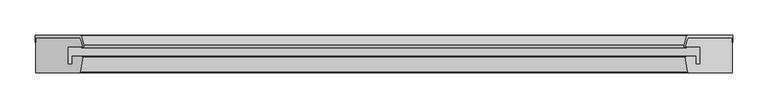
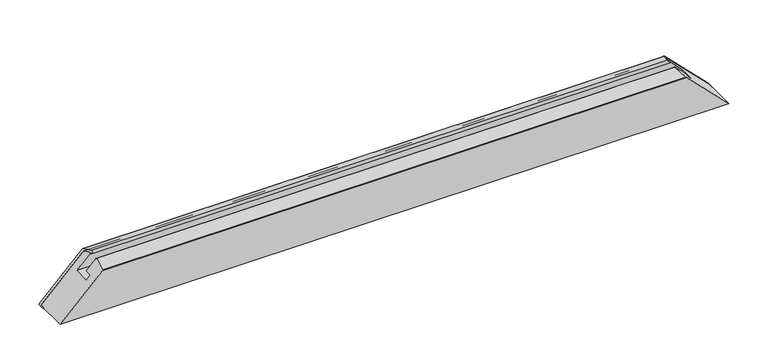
"""IFC4 building model written with IfcOpenShell, lengths in millimetres: proxy geometry, Weiku - Montante - Caixilho fixo 02.2.01.005 : Weiku - Montante - Caixilho fixo 02.2.01.005."""

from ifc_helpers import new_model, si_unit, frame, origin, place, context, project, spatial, polyline, ellipse_curve, source, transform, mapped, element, save
from ifc_brep_helpers import plane_surface, cylinder_surface, revolved_surface, advanced_brep


def generic_models_0eb24a48(model_context):
    return source(origin(), model_context, "Body", "AdvancedBrep", [
        advanced_brep(
        [(498.5, 43.5137905, -1.0), (498.5, 54.0, -1.0), (433.4663236, 54.0, 64.0336764), (432.5003978, 53.258819, 64.9996022), (428.6863753, 39.0246933, 68.8136247), (431.3909676, 35.5, 66.1090324), (431.3909676, 37.5, 66.1090324), (430.618227, 38.5070552, 66.881773), (433.1019557, 47.7764571, 64.3980443), (435.9997332, 50.0, 61.5002668), (497.5, 50.0, 0.0), (497.5, 43.5137905, 0.0), (-498.5, 54.0, -1.0), (-498.5, 43.5137905, -1.0), (-497.5, 43.5137905, 0.0), (-497.5, 50.0, 0.0), (-435.9997332, 50.0, 61.5002668), (-433.1019557, 47.7764571, 64.3980443), (-430.618227, 38.5070552, 66.881773), (-431.3909676, 37.5, 66.1090324), (-431.3909676, 35.5, 66.1090324), (-428.6863753, 39.0246933, 68.8136247), (-432.5003978, 53.258819, 64.9996022), (-433.4663236, 54.0, 64.0336764)],
        [
            (0, 1),
            (1, 2),
            (2, 3, ellipse_curve(frame((433.4663236, 53.0, 64.0336764), z_axis=(0.7071067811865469, 0.0, 0.7071067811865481), x_axis=(-0.7071067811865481, 0.0, 0.7071067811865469)), 1.4142136, 1.0)),
            (3, 4),
            (4, 5, ellipse_curve(frame((431.3909676, 38.3, 66.1090324), z_axis=(0.7071067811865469, 0.0, 0.7071067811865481), x_axis=(-0.7071067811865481, 0.0, 0.7071067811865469)), 3.959798, 2.8)),
            (5, 6),
            (6, 7, ellipse_curve(frame((431.3909676, 38.3, 66.1090324), z_axis=(-0.7071067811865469, 0.0, -0.7071067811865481), x_axis=(0.7071067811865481, 0.0, -0.7071067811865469)), 1.1313708, 0.8)),
            (7, 8),
            (8, 9, ellipse_curve(frame((435.9997332, 47.0, 61.5002668), z_axis=(-0.7071067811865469, 0.0, -0.7071067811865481), x_axis=(0.7071067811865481, 0.0, -0.7071067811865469)), 4.2426407, 3.0)),
            (9, 10),
            (10, 11),
            (11, 0),
            (12, 13),
            (13, 14),
            (14, 15),
            (15, 16),
            (16, 17, ellipse_curve(frame((-435.9997332, 47.0, 61.5002668), z_axis=(0.7071067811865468, 0.0, -0.7071067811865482), x_axis=(0.7071067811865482, 0.0, 0.7071067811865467)), 4.2426407, 3.0)),
            (17, 18),
            (18, 19, ellipse_curve(frame((-431.3909676, 38.3, 66.1090324), z_axis=(0.7071067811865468, 0.0, -0.7071067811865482), x_axis=(0.7071067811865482, 0.0, 0.7071067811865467)), 1.1313708, 0.8)),
            (19, 20),
            (20, 21, ellipse_curve(frame((-431.3909676, 38.3, 66.1090324), z_axis=(-0.7071067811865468, 0.0, 0.7071067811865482), x_axis=(-0.7071067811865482, 0.0, -0.7071067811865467)), 3.959798, 2.8)),
            (21, 22),
            (22, 23, ellipse_curve(frame((-433.4663236, 53.0, 64.0336764), z_axis=(-0.7071067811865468, 0.0, 0.7071067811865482), x_axis=(-0.7071067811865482, 0.0, -0.7071067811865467)), 1.4142136, 1.0)),
            (23, 12),
            (0, 13),
            (12, 1),
            (11, 14),
            (10, 15),
            (9, 16),
            (8, 17),
            (7, 18),
            (6, 19),
            (5, 20),
            (4, 21),
            (3, 22),
            (2, 23),
        ],
        [
            plane_surface(frame((427.5, -15.0, 70.0), z_axis=(0.7071067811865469, 0.0, 0.7071067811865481), x_axis=(0.0, 1.0, 0.0))),
            plane_surface(frame((-567.5, -15.0, -70.0), z_axis=(-0.7071067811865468, 0.0, 0.7071067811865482), x_axis=(0.0, 1.0, 0.0))),
            plane_surface(frame((-500.3284271, 54.0, -1.0), z_axis=(0.0, 0.0, -1.0), x_axis=(1.0, 0.0, 0.0))),
            plane_surface(frame((-500.3284271, 43.5137905, -1.0), z_axis=(0.0, -1.0, 0.0), x_axis=(1.0, 0.0, 0.0))),
            plane_surface(frame((-500.3284271, 43.5137905, 0.0), z_axis=(0.0, 0.0, 1.0), x_axis=(1.0, 0.0, 0.0))),
            plane_surface(frame((-500.3284271, 50.0, 0.0), z_axis=(0.0, -1.0, 0.0), x_axis=(1.0, 0.0, 0.0))),
            revolved_surface(polyline([(438.99973320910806, 44.0, 61.5002668), (-438.999733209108, 44.0, 61.5002668)]), (-500.3284271, 47.0, 61.5002668), (1.0, 0.0, 0.0)),
            plane_surface(frame((-500.3284271, 47.7764571, 64.3980443), z_axis=(0.0, -0.2588190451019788, -0.9659258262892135), x_axis=(1.0, 0.0, 0.0))),
            revolved_surface(polyline([(432.1909675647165, 37.5, 66.1090324), (-432.19096756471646, 37.5, 66.1090324)]), (-500.3284271, 38.3, 66.1090324), (1.0, 0.0, 0.0)),
            plane_surface(frame((-500.3284271, 37.5, 66.1090324), z_axis=(0.0, 0.0, -1.0), x_axis=(1.0, 0.0, 0.0))),
            cylinder_surface(frame((-500.3284271, 38.3, 66.1090324), z_axis=(-1.0, 0.0, 0.0), x_axis=(0.0, -1.0, 0.0)), 2.8),
            plane_surface(frame((-500.3284271, 39.0246933, 68.8136247), z_axis=(0.0, 0.25881904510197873, 0.9659258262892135), x_axis=(1.0, 0.0, 0.0))),
            cylinder_surface(frame((-500.3284271, 53.0, 64.0336764), z_axis=(-1.0, 0.0, 0.0), x_axis=(0.0, -1.0, 0.0)), 1.0),
            plane_surface(frame((-500.3284271, 54.0, 64.0336764), z_axis=(0.0, 1.0, 0.0), x_axis=(1.0, 0.0, 0.0))),
        ],
        [
            (0, [[1, 2, 3, 4, 5, 6, 7, 8, 9, 10, 11, 12]]),
            (1, [[13, 14, 15, 16, 17, 18, 19, 20, 21, 22, 23, 24]]),
            (2, [[-1, 25, -13, 26]]),
            (3, [[-12, 27, -14, -25]]),
            (4, [[-11, 28, -15, -27]]),
            (5, [[-10, 29, -16, -28]]),
            (6, [[-9, 30, -17, -29]]),
            (7, [[-8, 31, -18, -30]]),
            (8, [[-7, 32, -19, -31]]),
            (9, [[-6, 33, -20, -32]]),
            (10, [[-5, 34, -21, -33]]),
            (11, [[-4, 35, -22, -34]]),
            (12, [[-3, 36, -23, -35]]),
            (13, [[-2, -26, -24, -36]]),
        ],
    ),
        advanced_brep(
        [(-430.618227, 38.5070552, 66.881773), (-433.1019557, 47.7764571, 64.3980443), (-435.9997332, 50.0, 61.5002668), (-497.5, 50.0, 0.0), (-497.5, 0.0, 0.0), (-435.0355572, 0.0, 62.4644428), (-434.0489094, 0.8371317, 63.4510906), (-430.4998537, 22.3371317, 67.0001463), (-431.4865015, 23.5, 66.0134985), (-445.5009154, 23.5, 51.9990846), (-445.5009154, 12.5, 51.9990846), (-451.5, 12.5, 46.0), (-451.5, 37.5, 46.0), (-431.3909676, 37.5, 66.1090324), (433.1019557, 47.7764571, 64.3980443), (430.618227, 38.5070552, 66.881773), (431.3909676, 37.5, 66.1090324), (451.5, 37.5, 46.0), (451.5, 12.5, 46.0), (445.5009154, 12.5, 51.9990846), (445.5009154, 23.5, 51.9990846), (431.4865015, 23.5, 66.0134985), (430.4998537, 22.3371317, 67.0001463), (434.0489094, 0.8371317, 63.4510906), (435.0355572, 0.0, 62.4644428), (497.5, 0.0, 0.0), (497.5, 50.0, 0.0), (435.9997332, 50.0, 61.5002668)],
        [
            (0, 1),
            (1, 2, ellipse_curve(frame((-435.9997332, 47.0, 61.5002668), z_axis=(-0.7071067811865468, 0.0, 0.7071067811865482), x_axis=(-0.7071067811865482, 0.0, -0.7071067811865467)), 4.2426407, 3.0)),
            (2, 3),
            (3, 4),
            (4, 5),
            (5, 6, ellipse_curve(frame((-435.0355572, 1.0, 62.4644428), z_axis=(-0.7071067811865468, 0.0, 0.7071067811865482), x_axis=(-0.7071067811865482, 0.0, -0.7071067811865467)), 1.4142136, 1.0)),
            (6, 7),
            (7, 8, ellipse_curve(frame((-431.4865015, 22.5, 66.0134985), z_axis=(-0.7071067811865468, 0.0, 0.7071067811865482), x_axis=(-0.7071067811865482, 0.0, -0.7071067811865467)), 1.4142136, 1.0)),
            (8, 9),
            (9, 10),
            (10, 11),
            (11, 12),
            (12, 13),
            (13, 0, ellipse_curve(frame((-431.3909676, 38.3, 66.1090324), z_axis=(-0.7071067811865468, 0.0, 0.7071067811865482), x_axis=(-0.7071067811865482, 0.0, -0.7071067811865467)), 1.1313708, 0.8)),
            (14, 15),
            (15, 16, ellipse_curve(frame((431.3909676, 38.3, 66.1090324), z_axis=(0.7071067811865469, 0.0, 0.7071067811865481), x_axis=(-0.7071067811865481, 0.0, 0.7071067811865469)), 1.1313708, 0.8)),
            (16, 17),
            (17, 18),
            (18, 19),
            (19, 20),
            (20, 21),
            (21, 22, ellipse_curve(frame((431.4865015, 22.5, 66.0134985), z_axis=(0.7071067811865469, 0.0, 0.7071067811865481), x_axis=(-0.7071067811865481, 0.0, 0.7071067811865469)), 1.4142136, 1.0)),
            (22, 23),
            (23, 24, ellipse_curve(frame((435.0355572, 1.0, 62.4644428), z_axis=(0.7071067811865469, 0.0, 0.7071067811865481), x_axis=(-0.7071067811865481, 0.0, 0.7071067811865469)), 1.4142136, 1.0)),
            (24, 25),
            (25, 26),
            (26, 27),
            (27, 14, ellipse_curve(frame((435.9997332, 47.0, 61.5002668), z_axis=(0.7071067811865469, 0.0, 0.7071067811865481), x_axis=(-0.7071067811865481, 0.0, 0.7071067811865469)), 4.2426407, 3.0)),
            (0, 15),
            (14, 1),
            (27, 2),
            (26, 3),
            (25, 4),
            (24, 5),
            (23, 6),
            (22, 7),
            (21, 8),
            (20, 9),
            (19, 10),
            (18, 11),
            (17, 12),
            (16, 13),
        ],
        [
            plane_surface(frame((-567.5, -15.0, -70.0), z_axis=(-0.7071067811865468, 0.0, 0.7071067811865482), x_axis=(0.0, 1.0, 0.0))),
            plane_surface(frame((427.5, -15.0, 70.0), z_axis=(0.7071067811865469, 0.0, 0.7071067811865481), x_axis=(0.0, 1.0, 0.0))),
            plane_surface(frame((-497.5, 38.5070552, 66.881773), z_axis=(0.0, 0.2588190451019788, 0.9659258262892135), x_axis=(1.0, 0.0, 0.0))),
            cylinder_surface(frame((-497.5, 47.0, 61.5002668), z_axis=(-1.0, 0.0, 0.0), x_axis=(0.0, -1.0, 0.0)), 3.0),
            plane_surface(frame((-497.5, 50.0, 61.5002668), z_axis=(0.0, 1.0, 0.0), x_axis=(1.0, 0.0, 0.0))),
            plane_surface(frame((-497.5, 50.0, 0.0), z_axis=(0.0, 0.0, -1.0), x_axis=(1.0, 0.0, 0.0))),
            plane_surface(frame((-497.5, 0.0, 0.0), z_axis=(0.0, -1.0, 0.0), x_axis=(1.0, 0.0, 0.0))),
            cylinder_surface(frame((-497.5, 1.0, 62.4644428), z_axis=(-1.0, 0.0, 0.0), x_axis=(0.0, 1.0, 0.0)), 1.0),
            plane_surface(frame((-497.5, 0.8371317, 63.4510906), z_axis=(0.0, -0.16286828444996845, 0.9866478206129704), x_axis=(1.0, 0.0, 0.0))),
            cylinder_surface(frame((-497.5, 22.5, 66.0134985), z_axis=(-1.0, 0.0, 0.0), x_axis=(0.0, 1.0, 0.0)), 1.0),
            plane_surface(frame((-497.5, 23.5, 66.0134985), z_axis=(0.0, 1.0, 0.0), x_axis=(1.0, 0.0, 0.0))),
            plane_surface(frame((-497.5, 23.5, 51.9990846), z_axis=(0.0, 0.0, -1.0), x_axis=(1.0, 0.0, 0.0))),
            plane_surface(frame((-497.5, 12.5, 51.9990846), z_axis=(0.0, 1.0, 0.0), x_axis=(1.0, 0.0, 0.0))),
            plane_surface(frame((-497.5, 12.5, 46.0), z_axis=(0.0, 0.0, 1.0), x_axis=(1.0, 0.0, 0.0))),
            plane_surface(frame((-497.5, 37.5, 46.0), z_axis=(0.0, -1.0, 0.0), x_axis=(1.0, 0.0, 0.0))),
            cylinder_surface(frame((-497.5, 38.3, 66.1090324), z_axis=(-1.0, 0.0, 0.0), x_axis=(0.0, -1.0, 0.0)), 0.8),
        ],
        [
            (0, [[1, 2, 3, 4, 5, 6, 7, 8, 9, 10, 11, 12, 13, 14]]),
            (1, [[15, 16, 17, 18, 19, 20, 21, 22, 23, 24, 25, 26, 27, 28]]),
            (2, [[-1, 29, -15, 30]]),
            (3, [[-2, -30, -28, 31]]),
            (4, [[32, -3, -31, -27]]),
            (5, [[-32, -26, 33, -4]]),
            (6, [[-33, -25, 34, -5]]),
            (7, [[-6, -34, -24, 35]]),
            (8, [[-7, -35, -23, 36]]),
            (9, [[-8, -36, -22, 37]]),
            (10, [[-9, -37, -21, 38]]),
            (11, [[-10, -38, -20, 39]]),
            (12, [[-11, -39, -19, 40]]),
            (13, [[-12, -40, -18, 41]]),
            (14, [[-13, -41, -17, 42]]),
            (15, [[-14, -42, -16, -29]]),
        ],
    ),
    ])


if __name__ == "__main__":
    model = new_model("IFC4")
    model_context = context("Model", 3, world=origin())
    ifc_project = project(units=[si_unit("LENGTHUNIT", "METRE", prefix="MILLI")], contexts=[model_context])
    site = spatial("IfcSite", under=ifc_project)
    building = spatial("IfcBuilding", under=site)
    placement = place(None, origin())
    generic_models_shape = generic_models_0eb24a48(model_context)
    element("IfcBuildingElementProxy", 1, Name="Weiku - Montante - Caixilho fixo 02.2.01.005 : Weiku - Montante - Caixilho fixo 02.2.01.005", ObjectType="Weiku - Montante - Caixilho fixo 02.2.01.005 : Weiku - Montante - Caixilho fixo 02.2.01.005", at=placement, inside=building, context=model_context, shape_type="MappedRepresentation", body=[
        mapped(generic_models_shape, transform((0.0, 0.0, 0.0), x_axis=(1.0, 0.0, 0.0), y_axis=(0.0, 1.0, 0.0), z_axis=(0.0, 0.0, 1.0))),
    ])
    save(model, "model.ifc")
